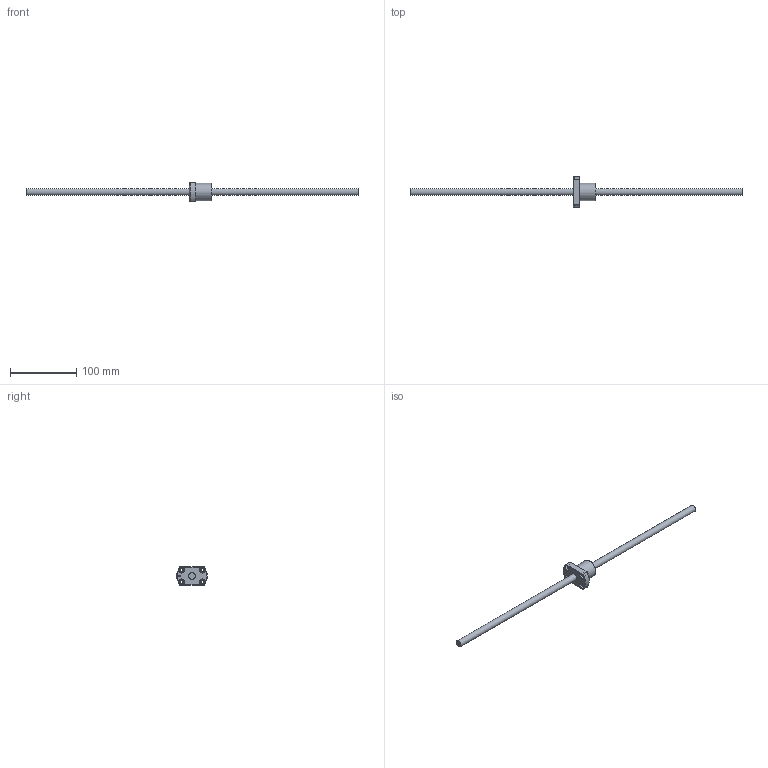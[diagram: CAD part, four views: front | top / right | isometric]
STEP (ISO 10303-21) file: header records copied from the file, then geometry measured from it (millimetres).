
FILE_DESCRIPTION (( 'STEP AP203' ), '1' );
FILE_NAME ('XSK01004.STEP', '2024-05-30T09:02:42', ( '' ), ( '' ), 'SwSTEP 2.0', 'SolidWorks 2022', '' );
FILE_SCHEMA (( 'CONFIG_CONTROL_DESIGN' ));
Length unit declared in the file: millimetre
Products named in the file (1): XSK01004
Bounding box: 500 x 46 x 28 mm (x, y, z)
Volume: 59174.1 mm3; surface area: 23281.9 mm2
Topology: 2 solids, 2 shells, 61 faces, 162 edges, 105 vertices
Faces by surface type: cylinder 21, plane 20, cone 9, bspline 6, torus 5
Full cylindrical faces by diameter (mm): 3 x1, 4.5 x4, 5 x6, 8 x4, 10 x1, 11.08 x1, 26 x1
Entity records: 3612 total; most frequent: CARTESIAN_POINT 2426, DIRECTION 218, ORIENTED_EDGE 204, EDGE_CURVE 102, AXIS2_PLACEMENT_3D 99, EDGE_LOOP 91, VERTEX_POINT 77, FACE_OUTER_BOUND 69
